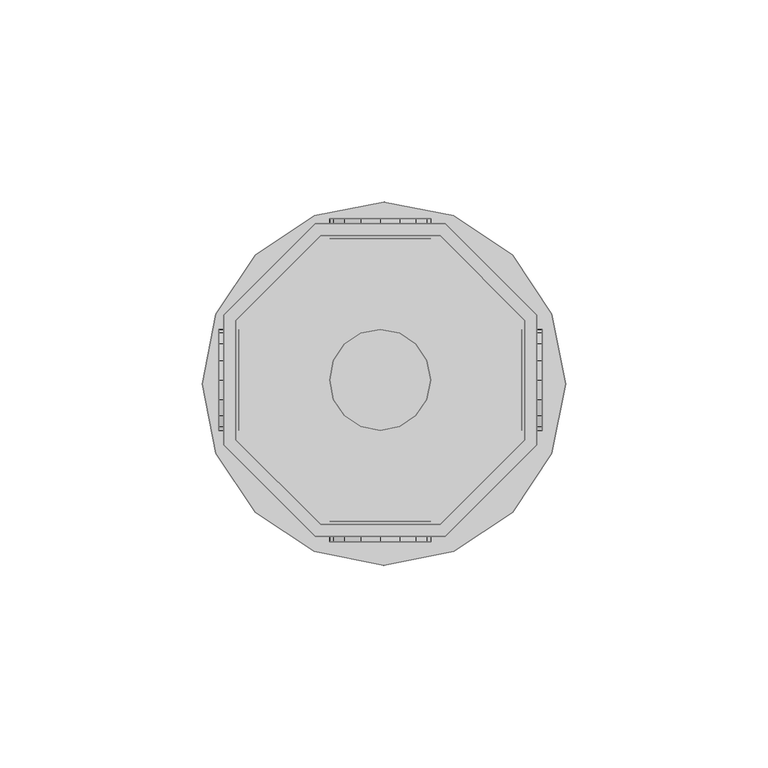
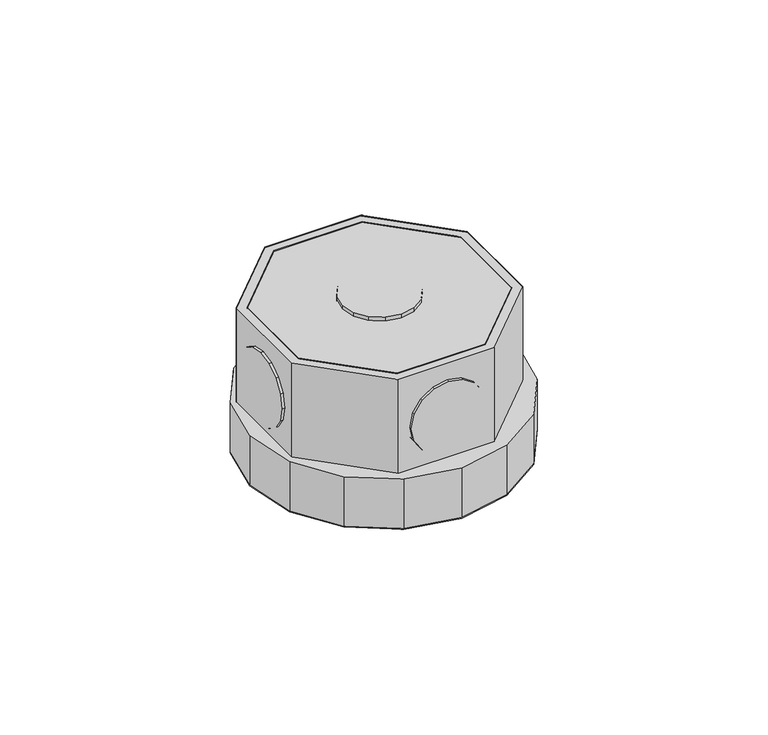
"""IFC4 building model written with IfcOpenShell, lengths in millimetres: light fixture geometry,  212784 :  212784."""

from ifc_helpers import new_model, si_unit, origin, place, context, project, spatial, triangles, source, transform, mapped, element, save


def light_fixture_a8e7f3b3(model_context):
    return source(origin(), model_context, "Body", "Tessellation", [
        triangles([(22344.998877, 9491.2497345, 2924.5999741), (22315.4006836, 9491.2497345, 2975.400071), (22315.4006836, 9491.2497345, 2924.5999741), (22344.998877, 9491.2497345, 2975.400071), (22346.2011292, 9416.7502121, 2924.5999741), (22314.1007629, 9416.7502121, 2975.400071), (22314.1007629, 9416.7502121, 2924.5999741), (22346.2011292, 9416.7502121, 2975.400071), (22294.3996399, 9470.2498535, 2975.400071), (22294.3996399, 9470.2498535, 2924.5999741), (22368.8997437, 9439.4499893, 2924.5999741), (22368.8997437, 9439.4499893, 2975.400071), (22294.3996399, 9440.6499161, 2975.400071), (22294.3996399, 9440.6499161, 2924.5999741), (22368.8997437, 9471.5497742, 2924.5999741), (22368.8997437, 9471.5497742, 2975.400071), (22315.4006836, 9419.750029, 2975.400071), (22315.4006836, 9419.750029, 2924.5999741), (22346.2011292, 9494.2501328, 2924.5999741), (22346.2011292, 9494.2501328, 2975.400071), (22344.998877, 9419.750029, 2924.5999741), (22344.998877, 9419.750029, 2975.400071), (22314.1007629, 9494.2501328, 2975.400071), (22314.1007629, 9494.2501328, 2924.5999741), (22365.8999268, 9440.6499161, 2924.5999741), (22365.8999268, 9440.6499161, 2975.400071), (22291.399823, 9471.5497742, 2975.400071), (22291.399823, 9471.5497742, 2924.5999741), (22291.399823, 9439.4499893, 2975.400071), (22365.8999268, 9470.2498535, 2975.400071), (22365.8999268, 9470.2498535, 2924.5999741), (22291.399823, 9439.4499893, 2924.5999741), (22294.3996399, 9440.6499161, 2972.3999634), (22315.4006836, 9419.750029, 2972.3999634), (22344.998877, 9419.750029, 2972.3999634), (22365.8999268, 9440.6499161, 2972.3999634), (22365.8999268, 9470.2498535, 2972.3999634), (22344.998877, 9491.2497345, 2972.3999634), (22315.4006836, 9491.2497345, 2972.3999634), (22294.3996399, 9470.2498535, 2972.3999634), (22291.399823, 9471.5497742, 2942.4000504), (22314.1007629, 9494.2501328, 2942.4000504), (22346.2011292, 9494.2501328, 2942.4000504), (22368.8997437, 9471.5497742, 2942.4000504), (22368.8997437, 9439.4499893, 2942.4000504), (22346.2011292, 9416.7502121, 2942.4000504), (22314.1007629, 9416.7502121, 2942.4000504), (22291.399823, 9439.4499893, 2942.4000504), (22313.8007812, 9413.0498566, 2942.4000504), (22289.499939, 9437.3501175, 2942.4000504), (22299.1993469, 9422.7498459, 2942.4000504), (22286.1001465, 9454.5502304, 2942.4000504), (22289.499939, 9471.8497559, 2942.4000504), (22299.1993469, 9486.4500275, 2942.4000504), (22313.8007812, 9496.1500168, 2942.4000504), (22331.0997253, 9499.5498093, 2942.4000504), (22348.301001, 9496.1500168, 2942.4000504), (22372.5995178, 9471.8497559, 2942.4000504), (22362.9001099, 9486.4500275, 2942.4000504), (22331.0997253, 9409.5500702, 2942.4000504), (22348.301001, 9413.0498566, 2942.4000504), (22362.9001099, 9422.7498459, 2942.4000504), (22372.5995178, 9437.3501175, 2942.4000504), (22376.0993042, 9454.5502304, 2942.4000504), (22289.499939, 9437.3501175, 2924.5999741), (22313.8007812, 9413.0498566, 2924.5999741), (22299.1993469, 9422.7498459, 2924.5999741), (22286.1001465, 9454.5502304, 2924.5999741), (22289.499939, 9471.8497559, 2924.5999741), (22299.1993469, 9486.4500275, 2924.5999741), (22313.8007812, 9496.1500168, 2924.5999741), (22331.0997253, 9499.5498093, 2924.5999741), (22348.301001, 9496.1500168, 2924.5999741), (22372.5995178, 9471.8497559, 2924.5999741), (22362.9001099, 9486.4500275, 2924.5999741), (22331.0997253, 9409.5500702, 2924.5999741), (22348.301001, 9413.0498566, 2924.5999741), (22362.9001099, 9422.7498459, 2924.5999741), (22372.5995178, 9437.3501175, 2924.5999741), (22376.0993042, 9454.5502304, 2924.5999741), (22318.6004883, 9495.4500595, 2952.6000092), (22325.4000732, 9495.4500595, 2945.9001274), (22321.3003235, 9495.4500595, 2948.5999626), (22317.7005432, 9495.4500595, 2957.4000069), (22330.1997803, 9495.4500595, 2944.8998978), (22318.6004883, 9495.4500595, 2962.2000046), (22334.9994873, 9495.4500595, 2945.9001274), (22321.3003235, 9495.4500595, 2966.2000511), (22338.9992432, 9495.4500595, 2948.5999626), (22325.4000732, 9495.4500595, 2968.8998863), (22341.6990784, 9495.4500595, 2952.6000092), (22330.1997803, 9495.4500595, 2969.900116), (22342.6990173, 9495.4500595, 2957.4000069), (22334.9994873, 9495.4500595, 2968.8998863), (22341.6990784, 9495.4500595, 2962.2000046), (22338.9992432, 9495.4500595, 2966.2000511), (22325.4000732, 9490.4497833, 2945.9001274), (22318.6004883, 9490.4497833, 2952.6000092), (22321.3003235, 9490.4497833, 2948.5999626), (22330.1997803, 9490.4497833, 2944.8998978), (22317.7005432, 9490.4497833, 2957.4000069), (22334.9994873, 9490.4497833, 2945.9001274), (22318.6004883, 9490.4497833, 2962.2000046), (22338.9992432, 9490.4497833, 2948.5999626), (22321.3003235, 9490.4497833, 2966.2000511), (22325.4000732, 9490.4497833, 2968.8998863), (22341.6990784, 9490.4497833, 2952.6000092), (22330.1997803, 9490.4497833, 2969.900116), (22342.6990173, 9490.4497833, 2957.4000069), (22334.9994873, 9490.4497833, 2968.8998863), (22341.6990784, 9490.4497833, 2962.2000046), (22338.9992432, 9490.4497833, 2966.2000511), (22318.6004883, 9420.4499863, 2952.6000092), (22325.4000732, 9420.4499863, 2945.9001274), (22321.3003235, 9420.4499863, 2948.5999626), (22317.7005432, 9420.4499863, 2957.4000069), (22330.1997803, 9420.4499863, 2944.8998978), (22318.6004883, 9420.4499863, 2962.2000046), (22334.9994873, 9420.4499863, 2945.9001274), (22321.3003235, 9420.4499863, 2966.2000511), (22338.9992432, 9420.4499863, 2948.5999626), (22325.4000732, 9420.4499863, 2968.8998863), (22341.6990784, 9420.4499863, 2952.6000092), (22330.1997803, 9420.4499863, 2969.900116), (22342.6990173, 9420.4499863, 2957.4000069), (22334.9994873, 9420.4499863, 2968.8998863), (22341.6990784, 9420.4499863, 2962.2000046), (22338.9992432, 9420.4499863, 2966.2000511), (22325.4000732, 9415.4497101, 2945.9001274), (22318.6004883, 9415.4497101, 2952.6000092), (22321.3003235, 9415.4497101, 2948.5999626), (22330.1997803, 9415.4497101, 2944.8998978), (22317.7005432, 9415.4497101, 2957.4000069), (22334.9994873, 9415.4497101, 2945.9001274), (22318.6004883, 9415.4497101, 2962.2000046), (22338.9992432, 9415.4497101, 2948.5999626), (22321.3003235, 9415.4497101, 2966.2000511), (22325.4000732, 9415.4497101, 2968.8998863), (22341.6990784, 9415.4497101, 2952.6000092), (22330.1997803, 9415.4497101, 2969.900116), (22342.6990173, 9415.4497101, 2957.4000069), (22334.9994873, 9415.4497101, 2968.8998863), (22341.6990784, 9415.4497101, 2962.2000046), (22338.9992432, 9415.4497101, 2966.2000511), (22295.1995911, 9450.6498871, 2945.9001274), (22295.1995911, 9443.9497147, 2952.6000092), (22295.1995911, 9446.6501312, 2948.5999626), (22295.1995911, 9455.4501755, 2944.8998978), (22295.1995911, 9442.9497757, 2957.4000069), (22295.1995911, 9460.2498825, 2945.9001274), (22295.1995911, 9443.9497147, 2962.2000046), (22295.1995911, 9464.3502136, 2948.5999626), (22295.1995911, 9446.6501312, 2966.2000511), (22295.1995911, 9450.6498871, 2968.8998863), (22295.1995911, 9467.0500488, 2952.6000092), (22295.1995911, 9455.4501755, 2969.900116), (22295.1995911, 9467.9499939, 2957.4000069), (22295.1995911, 9460.2498825, 2968.8998863), (22295.1995911, 9467.0500488, 2962.2000046), (22295.1995911, 9464.3502136, 2966.2000511), (22290.1998962, 9443.9497147, 2952.6000092), (22290.1998962, 9450.6498871, 2945.9001274), (22290.1998962, 9446.6501312, 2948.5999626), (22290.1998962, 9442.9497757, 2957.4000069), (22290.1998962, 9455.4501755, 2944.8998978), (22290.1998962, 9443.9497147, 2962.2000046), (22290.1998962, 9460.2498825, 2945.9001274), (22290.1998962, 9446.6501312, 2966.2000511), (22290.1998962, 9464.3502136, 2948.5999626), (22290.1998962, 9450.6498871, 2968.8998863), (22290.1998962, 9467.0500488, 2952.6000092), (22290.1998962, 9455.4501755, 2969.900116), (22290.1998962, 9467.9499939, 2957.4000069), (22290.1998962, 9460.2498825, 2968.8998863), (22290.1998962, 9467.0500488, 2962.2000046), (22290.1998962, 9464.3502136, 2966.2000511), (22370.1996643, 9450.6498871, 2945.9001274), (22370.1996643, 9443.9497147, 2952.6000092), (22370.1996643, 9446.6501312, 2948.5999626), (22370.1996643, 9455.4501755, 2944.8998978), (22370.1996643, 9442.9497757, 2957.4000069), (22370.1996643, 9460.2498825, 2945.9001274), (22370.1996643, 9443.9497147, 2962.2000046), (22370.1996643, 9464.3502136, 2948.5999626), (22370.1996643, 9446.6501312, 2966.2000511), (22370.1996643, 9450.6498871, 2968.8998863), (22370.1996643, 9467.0500488, 2952.6000092), (22370.1996643, 9455.4501755, 2969.900116), (22370.1996643, 9467.9499939, 2957.4000069), (22370.1996643, 9460.2498825, 2968.8998863), (22370.1996643, 9467.0500488, 2962.2000046), (22370.1996643, 9464.3502136, 2966.2000511), (22365.1999695, 9443.9497147, 2952.6000092), (22365.1999695, 9450.6498871, 2945.9001274), (22365.1999695, 9446.6501312, 2948.5999626), (22365.1999695, 9442.9497757, 2957.4000069), (22365.1999695, 9455.4501755, 2944.8998978), (22365.1999695, 9443.9497147, 2962.2000046), (22365.1999695, 9460.2498825, 2945.9001274), (22365.1999695, 9446.6501312, 2966.2000511), (22365.1999695, 9464.3502136, 2948.5999626), (22365.1999695, 9450.6498871, 2968.8998863), (22365.1999695, 9467.0500488, 2952.6000092), (22365.1999695, 9455.4501755, 2969.900116), (22365.1999695, 9467.9499939, 2957.4000069), (22365.1999695, 9460.2498825, 2968.8998863), (22365.1999695, 9467.0500488, 2962.2000046), (22365.1999695, 9464.3502136, 2966.2000511), (22325.4000732, 9443.9497147, 2976.9999733), (22318.6004883, 9450.6498871, 2976.9999733), (22321.3003235, 9446.6501312, 2976.9999733), (22317.7005432, 9455.4501755, 2976.9999733), (22330.1997803, 9442.9497757, 2976.9999733), (22318.6004883, 9460.2498825, 2976.9999733), (22334.9994873, 9443.9497147, 2976.9999733), (22321.3003235, 9464.3502136, 2976.9999733), (22338.9992432, 9446.6501312, 2976.9999733), (22325.4000732, 9467.0500488, 2976.9999733), (22341.6990784, 9450.6498871, 2976.9999733), (22330.1997803, 9467.9499939, 2976.9999733), (22342.6990173, 9455.4501755, 2976.9999733), (22334.9994873, 9467.0500488, 2976.9999733), (22341.6990784, 9460.2498825, 2976.9999733), (22338.9992432, 9464.3502136, 2976.9999733), (22318.6004883, 9450.6498871, 2971.9999878), (22325.4000732, 9443.9497147, 2971.9999878), (22321.3003235, 9446.6501312, 2971.9999878), (22317.7005432, 9455.4501755, 2971.9999878), (22330.1997803, 9442.9497757, 2971.9999878), (22318.6004883, 9460.2498825, 2971.9999878), (22334.9994873, 9443.9497147, 2971.9999878), (22321.3003235, 9464.3502136, 2971.9999878), (22338.9992432, 9446.6501312, 2971.9999878), (22325.4000732, 9467.0500488, 2971.9999878), (22341.6990784, 9450.6498871, 2971.9999878), (22330.1997803, 9467.9499939, 2971.9999878), (22342.6990173, 9455.4501755, 2971.9999878), (22334.9994873, 9467.0500488, 2971.9999878), (22341.6990784, 9460.2498825, 2971.9999878), (22338.9992432, 9464.3502136, 2971.9999878)], [[1, 2, 3], [2, 1, 4], [5, 6, 7], [6, 5, 8], [3, 9, 10], [9, 3, 2], [11, 8, 5], [8, 11, 12], [10, 13, 14], [13, 10, 9], [15, 12, 11], [12, 15, 16], [14, 17, 18], [17, 14, 13], [19, 16, 15], [16, 19, 20], [17, 21, 18], [21, 17, 22], [23, 19, 24], [19, 23, 20], [22, 25, 21], [25, 22, 26], [27, 24, 28], [24, 27, 23], [6, 13, 29], [29, 13, 27], [27, 13, 9], [27, 9, 23], [23, 9, 2], [23, 2, 4], [23, 4, 20], [20, 4, 30], [8, 17, 6], [6, 17, 13], [17, 8, 22], [12, 22, 8], [22, 12, 26], [30, 26, 12], [16, 30, 12], [20, 30, 16], [30, 1, 31], [1, 30, 4], [6, 32, 7], [32, 6, 29], [32, 14, 7], [28, 14, 32], [14, 28, 10], [24, 10, 28], [10, 24, 3], [1, 3, 24], [19, 1, 24], [31, 1, 19], [7, 18, 5], [14, 18, 7], [5, 18, 21], [5, 21, 11], [11, 21, 25], [11, 25, 31], [11, 31, 15], [15, 31, 19], [26, 31, 25], [31, 26, 30], [29, 28, 32], [28, 29, 27], [17, 33, 34], [33, 17, 13], [35, 17, 34], [17, 35, 22], [36, 22, 35], [22, 36, 26], [37, 26, 36], [26, 37, 30], [38, 30, 37], [30, 38, 4], [2, 38, 39], [38, 2, 4], [17, 9, 13], [9, 17, 22], [9, 22, 2], [2, 22, 26], [2, 26, 4], [4, 26, 30], [13, 40, 33], [40, 13, 9], [40, 34, 33], [35, 34, 40], [35, 40, 39], [35, 39, 36], [36, 39, 38], [36, 38, 37], [9, 39, 40], [39, 9, 2], [24, 41, 28], [41, 24, 42], [19, 42, 24], [42, 19, 43], [44, 19, 15], [19, 44, 43], [45, 15, 11], [15, 45, 44], [46, 11, 5], [11, 46, 45], [47, 5, 7], [5, 47, 46], [32, 47, 7], [47, 32, 48], [28, 48, 32], [48, 28, 41], [49, 50, 51], [48, 50, 49], [50, 48, 52], [41, 52, 48], [52, 41, 53], [53, 41, 54], [42, 54, 41], [54, 42, 55], [55, 42, 43], [55, 43, 56], [56, 43, 57], [57, 43, 44], [57, 44, 58], [57, 58, 59], [47, 49, 60], [49, 47, 48], [47, 60, 46], [61, 46, 60], [46, 61, 62], [46, 62, 45], [45, 62, 63], [44, 45, 63], [44, 63, 64], [44, 64, 58], [65, 66, 67], [66, 65, 32], [68, 32, 65], [32, 68, 28], [28, 68, 69], [70, 28, 69], [28, 70, 24], [71, 24, 70], [19, 24, 71], [19, 71, 72], [73, 19, 72], [19, 73, 15], [74, 15, 73], [74, 73, 75], [76, 66, 7], [32, 7, 66], [5, 76, 7], [76, 5, 77], [77, 5, 78], [11, 78, 5], [78, 11, 79], [79, 11, 15], [79, 15, 80], [80, 15, 74], [57, 75, 73], [75, 57, 59], [56, 73, 72], [73, 56, 57], [55, 72, 71], [72, 55, 56], [54, 71, 70], [71, 54, 55], [53, 70, 69], [70, 53, 54], [52, 69, 68], [69, 52, 53], [50, 68, 65], [68, 50, 52], [51, 65, 67], [65, 51, 50], [66, 51, 67], [51, 66, 49], [76, 49, 66], [49, 76, 60], [77, 60, 76], [60, 77, 61], [78, 61, 77], [61, 78, 62], [79, 62, 78], [62, 79, 63], [80, 63, 79], [63, 80, 64], [75, 58, 74], [58, 75, 59], [74, 64, 80], [64, 74, 58], [81, 82, 83], [82, 81, 84], [85, 82, 84], [85, 84, 86], [87, 85, 86], [87, 86, 88], [87, 88, 89], [89, 88, 90], [89, 90, 91], [91, 90, 92], [91, 92, 93], [93, 92, 94], [93, 94, 95], [95, 94, 96], [97, 98, 99], [98, 97, 100], [101, 98, 100], [101, 100, 102], [103, 101, 102], [103, 102, 104], [103, 104, 105], [105, 104, 106], [106, 104, 107], [106, 107, 108], [108, 107, 109], [108, 109, 110], [110, 109, 111], [110, 111, 112], [87, 104, 102], [104, 87, 89], [85, 102, 100], [102, 85, 87], [82, 100, 97], [100, 82, 85], [83, 97, 99], [97, 83, 82], [98, 83, 99], [83, 98, 81], [101, 81, 98], [81, 101, 84], [103, 84, 101], [84, 103, 86], [105, 86, 103], [86, 105, 88], [106, 88, 105], [88, 106, 90], [108, 90, 106], [90, 108, 92], [110, 92, 108], [92, 110, 94], [112, 94, 110], [94, 112, 96], [95, 112, 111], [112, 95, 96], [93, 111, 109], [111, 93, 95], [89, 107, 104], [107, 89, 91], [91, 109, 107], [109, 91, 93], [113, 114, 115], [114, 113, 116], [117, 114, 116], [117, 116, 118], [119, 117, 118], [119, 118, 120], [119, 120, 121], [121, 120, 122], [121, 122, 123], [123, 122, 124], [123, 124, 125], [125, 124, 126], [125, 126, 127], [127, 126, 128], [129, 130, 131], [130, 129, 132], [133, 130, 132], [133, 132, 134], [135, 133, 134], [135, 134, 136], [135, 136, 137], [137, 136, 138], [138, 136, 139], [138, 139, 140], [140, 139, 141], [140, 141, 142], [142, 141, 143], [142, 143, 144], [119, 136, 134], [136, 119, 121], [117, 134, 132], [134, 117, 119], [114, 132, 129], [132, 114, 117], [115, 129, 131], [129, 115, 114], [130, 115, 131], [115, 130, 113], [133, 113, 130], [113, 133, 116], [135, 116, 133], [116, 135, 118], [137, 118, 135], [118, 137, 120], [138, 120, 137], [120, 138, 122], [140, 122, 138], [122, 140, 124], [142, 124, 140], [124, 142, 126], [144, 126, 142], [126, 144, 128], [127, 144, 143], [144, 127, 128], [125, 143, 141], [143, 125, 127], [121, 139, 136], [139, 121, 123], [123, 141, 139], [141, 123, 125], [145, 146, 147], [146, 145, 148], [149, 146, 148], [149, 148, 150], [151, 149, 150], [151, 150, 152], [151, 152, 153], [153, 152, 154], [154, 152, 155], [154, 155, 156], [156, 155, 157], [156, 157, 158], [158, 157, 159], [158, 159, 160], [161, 162, 163], [162, 161, 164], [165, 162, 164], [165, 164, 166], [167, 165, 166], [167, 166, 168], [169, 167, 168], [169, 168, 170], [169, 170, 171], [171, 170, 172], [171, 172, 173], [173, 172, 174], [173, 174, 175], [175, 174, 176], [158, 176, 174], [176, 158, 160], [156, 174, 172], [174, 156, 158], [154, 172, 170], [172, 154, 156], [153, 170, 168], [170, 153, 154], [151, 168, 166], [168, 151, 153], [149, 166, 164], [166, 149, 151], [146, 164, 161], [164, 146, 149], [147, 161, 163], [161, 147, 146], [162, 147, 163], [147, 162, 145], [165, 145, 162], [145, 165, 148], [167, 148, 165], [148, 167, 150], [169, 150, 167], [150, 169, 152], [171, 152, 169], [152, 171, 155], [173, 155, 171], [155, 173, 157], [176, 159, 175], [159, 176, 160], [175, 157, 173], [157, 175, 159], [177, 178, 179], [178, 177, 180], [181, 178, 180], [181, 180, 182], [183, 181, 182], [183, 182, 184], [183, 184, 185], [185, 184, 186], [186, 184, 187], [186, 187, 188], [188, 187, 189], [188, 189, 190], [190, 189, 191], [190, 191, 192], [193, 194, 195], [194, 193, 196], [197, 194, 196], [197, 196, 198], [199, 197, 198], [199, 198, 200], [201, 199, 200], [201, 200, 202], [201, 202, 203], [203, 202, 204], [203, 204, 205], [205, 204, 206], [205, 206, 207], [207, 206, 208], [190, 208, 206], [208, 190, 192], [188, 206, 204], [206, 188, 190], [186, 204, 202], [204, 186, 188], [185, 202, 200], [202, 185, 186], [183, 200, 198], [200, 183, 185], [181, 198, 196], [198, 181, 183], [178, 196, 193], [196, 178, 181], [179, 193, 195], [193, 179, 178], [194, 179, 195], [179, 194, 177], [197, 177, 194], [177, 197, 180], [199, 180, 197], [180, 199, 182], [201, 182, 199], [182, 201, 184], [203, 184, 201], [184, 203, 187], [205, 187, 203], [187, 205, 189], [208, 191, 207], [191, 208, 192], [207, 189, 205], [189, 207, 191], [209, 210, 211], [212, 210, 209], [212, 209, 213], [214, 212, 213], [214, 213, 215], [216, 214, 215], [216, 215, 217], [216, 217, 218], [218, 217, 219], [218, 219, 220], [220, 219, 221], [220, 221, 222], [222, 221, 223], [222, 223, 224], [225, 226, 227], [226, 225, 228], [229, 226, 228], [229, 228, 230], [231, 229, 230], [231, 230, 232], [231, 232, 233], [233, 232, 234], [233, 234, 235], [235, 234, 236], [235, 236, 237], [237, 236, 238], [237, 238, 239], [239, 238, 240], [222, 240, 238], [240, 222, 224], [220, 238, 236], [238, 220, 222], [218, 236, 234], [236, 218, 220], [216, 234, 232], [234, 216, 218], [214, 232, 230], [232, 214, 216], [212, 230, 228], [230, 212, 214], [210, 228, 225], [228, 210, 212], [211, 225, 227], [225, 211, 210], [226, 211, 227], [211, 226, 209], [229, 209, 226], [209, 229, 213], [231, 213, 229], [213, 231, 215], [233, 215, 231], [215, 233, 217], [235, 217, 233], [217, 235, 219], [237, 219, 235], [219, 237, 221], [240, 223, 239], [223, 240, 224], [239, 221, 237], [221, 239, 223]], closed=False),
    ])


if __name__ == "__main__":
    model = new_model("IFC4")
    model_context = context("Model", 3, world=origin())
    ifc_project = project(units=[si_unit("LENGTHUNIT", "METRE", prefix="MILLI")], contexts=[model_context])
    site = spatial("IfcSite", under=ifc_project)
    building = spatial("IfcBuilding", under=site)
    placement = place(None, origin())
    light_fixture_shape = light_fixture_a8e7f3b3(model_context)
    element("IfcLightFixture", 1, ObjectType=" 212784 :  212784", at=placement, inside=building, context=model_context, shape_type="MappedRepresentation", body=[
        mapped(light_fixture_shape, transform((0.0, 0.0, 0.0), x_axis=(1.0, 0.0, 0.0), y_axis=(0.0, 1.0, 0.0), z_axis=(0.0, 0.0, 1.0))),
    ])
    save(model, "model.ifc")
